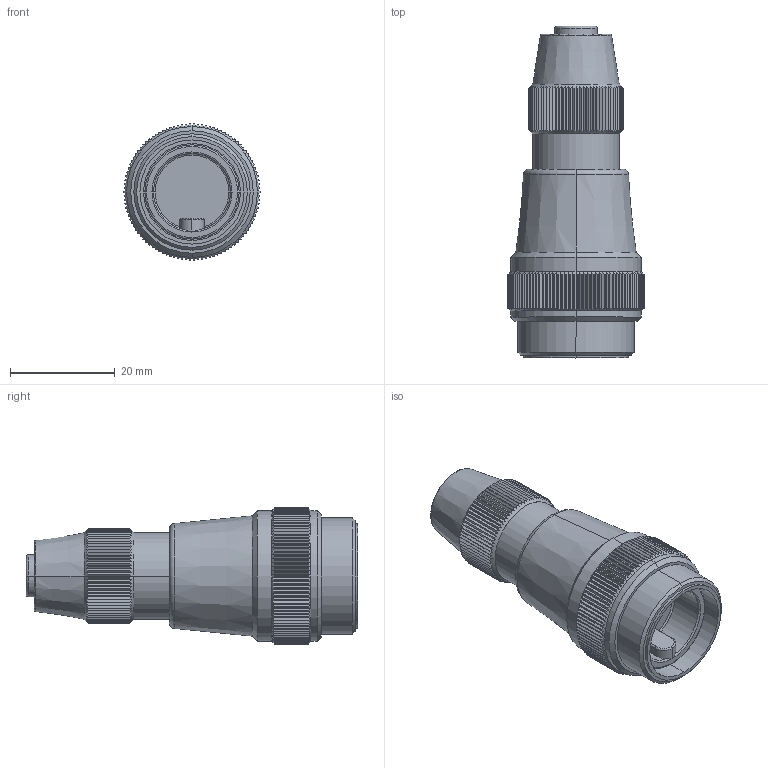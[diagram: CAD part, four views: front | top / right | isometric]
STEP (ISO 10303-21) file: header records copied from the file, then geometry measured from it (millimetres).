
FILE_DESCRIPTION (( 'STEP AP203' ), '1' );
FILE_NAME ('RSM-FK.step', '2014-12-03T14:34:26', ( 'Turck User' ), ( '' ), 'SwSTEP 2.0', 'SolidWorks 2014', '' );
FILE_SCHEMA (( 'CONFIG_CONTROL_DESIGN' ));
Length unit declared in the file: millimetre
Products named in the file (2): RSM-FK
Bounding box: 26 x 63.4 x 25.99 mm (x, y, z)
Volume: 17789.9 mm3; surface area: 9845.7 mm2
Topology: 1 solids, 1 shells, 583 faces, 1650 edges, 1085 vertices
Faces by surface type: plane 396, cylinder 146, cone 22, torus 19
Entity records: 19723 total; most frequent: CARTESIAN_POINT 5624, ORIENTED_EDGE 3300, DIRECTION 2412, EDGE_CURVE 1650, VERTEX_POINT 1085, AXIS2_PLACEMENT_3D 929, B_SPLINE_CURVE_WITH_KNOTS 752, EDGE_LOOP 599
